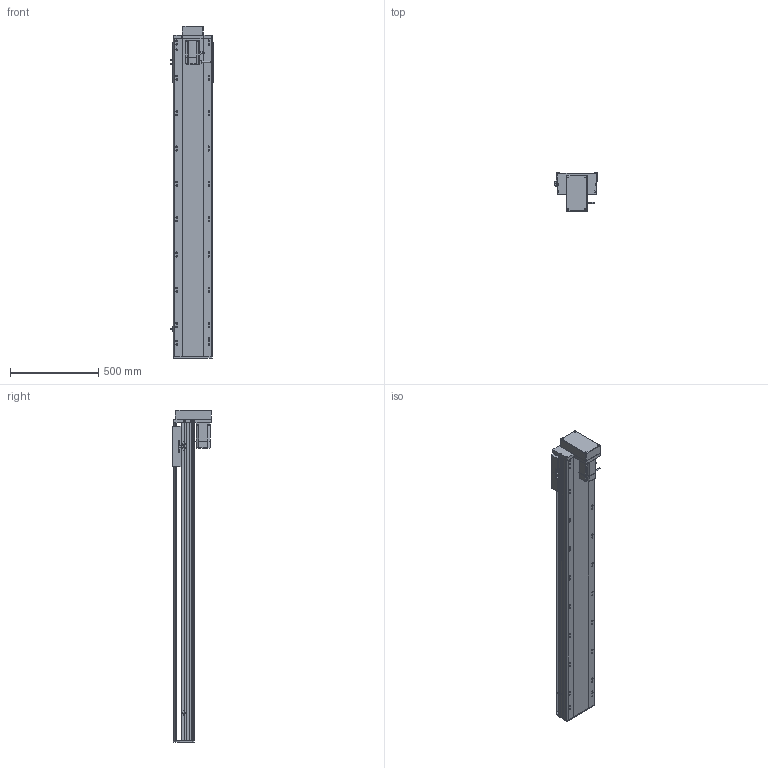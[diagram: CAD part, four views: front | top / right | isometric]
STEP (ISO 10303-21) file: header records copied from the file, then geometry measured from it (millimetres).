
FILE_DESCRIPTION (( 'STEP AP214' ), '1' );
FILE_NAME ('RTH22-XX-1500-M-M75-C4.STEP', '2025-10-24T11:15:40', ( 'Microsoft' ), ( 'Microsoft' ), 'SwSTEP 2.0', 'SolidWorks 2018', '' );
FILE_SCHEMA (( 'AUTOMOTIVE_DESIGN' ));
Length unit declared in the file: millimetre
Products named in the file (10): N_RTH22-M-018裔赽^RTH22-XX-XX-M-M75-C4; RTH22-XX-1500-M-M75-C4; N_RTH22-L-004-SFS25賑釱^RTH22-XX-XX-M-M75-C4; N_OMRON EE-SX672 传感器^RTH22-XX-XX-M-M75-C4; N_RTH22-L-011菁釱^RTH22-XX-XX-M-M75-C4; N_RTH22-M-008-P75萇儂啣^RTH22-XX-XX-M-M75-C4; N_RTH22-GY-001耜裔^RTH22-XX-XX-M-M75-C4; N_RTH22-GY-013外置感应片^RTH22-XX-XX-M-M75-C4; N_750W萇儂^RTH22-XX-XX-M-M75-C4; N_RTH22-M-007奻裔^RTH22-XX-XX-M-M75-C4
Assembly tree (11 placements, depth 2):
  RTH22-XX-1500-M-M75-C4
    N_RTH22-L-011菁釱^RTH22-XX-XX-M-M75-C4
    N_RTH22-GY-001耜裔^RTH22-XX-XX-M-M75-C4
    N_750W萇儂^RTH22-XX-XX-M-M75-C4
    N_RTH22-M-008-P75萇儂啣^RTH22-XX-XX-M-M75-C4
    N_RTH22-M-007奻裔^RTH22-XX-XX-M-M75-C4
    N_RTH22-M-018裔赽^RTH22-XX-XX-M-M75-C4
    N_OMRON EE-SX672 传感器^RTH22-XX-XX-M-M75-C4  x3
    N_RTH22-GY-013外置感应片^RTH22-XX-XX-M-M75-C4
    N_RTH22-L-004-SFS25賑釱^RTH22-XX-XX-M-M75-C4
Bounding box: 238.5 x 218.5 x 1879.7 mm (x, y, z)
Volume: 24675514.2 mm3; surface area: 2645218.5 mm2
Topology: 11 solids, 11 shells, 1677 faces, 4580 edges, 2945 vertices
Faces by surface type: plane 813, cylinder 511, bspline 279, cone 74
Entity records: 42973 total; most frequent: CARTESIAN_POINT 12808, ORIENTED_EDGE 6104, DIRECTION 5826, EDGE_CURVE 3052, AXIS2_PLACEMENT_3D 1983, VERTEX_POINT 1981, LINE 1860, VECTOR 1860
